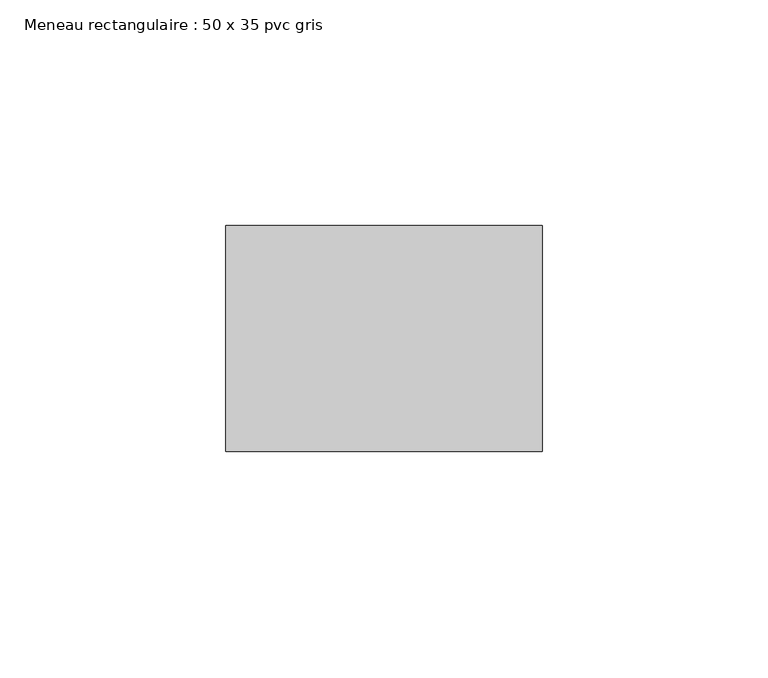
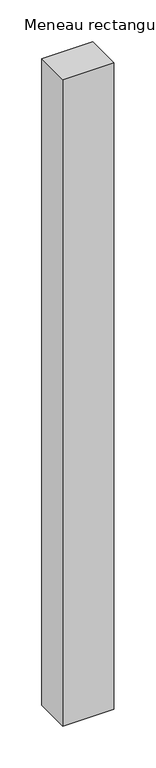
"""IFC4 building model written with IfcOpenShell, lengths in millimetres: member geometry, Meneau rectangulaire : 50 x 35 pvc gris."""

from ifc_helpers import new_model, si_unit, frame, origin, place, context, project, spatial, polyline, outline, extrude, source, transform, mapped, element, save


def meneau_rectangulaire_50_x_35_pvc_gris_bb0e5227(model_context):
    return source(origin(), model_context, "Body", "SweptSolid", [
        extrude(outline(polyline([(35.0, 0.0), (35.0, -50.0), (-35.0, -50.0), (-35.0, 0.0), (35.0, 0.0)])), frame((0.0, 0.0, -941.3980781), z_axis=(0.0, 0.0, 1.0), x_axis=(1.0, 0.0, 0.0)), (0.0, 0.0, 1.0), 941.3980781),
    ])


if __name__ == "__main__":
    model = new_model("IFC4")
    model_context = context("Model", 3, world=origin())
    ifc_project = project(units=[si_unit("LENGTHUNIT", "METRE", prefix="MILLI")], contexts=[model_context])
    site = spatial("IfcSite", under=ifc_project)
    building = spatial("IfcBuilding", under=site)
    placement = place(None, origin())
    meneau_rectangulaire_50_x_35_pvc_gris_shape = meneau_rectangulaire_50_x_35_pvc_gris_bb0e5227(model_context)
    element("IfcMember", 1, ObjectType="Meneau rectangulaire : 50 x 35 pvc gris", at=placement, inside=building, context=model_context, shape_type="MappedRepresentation", body=[
        mapped(meneau_rectangulaire_50_x_35_pvc_gris_shape, transform((0.0, 0.0, 0.0), x_axis=(1.0, 0.0, 0.0), y_axis=(0.0, 1.0, 0.0), z_axis=(0.0, 0.0, 1.0))),
    ])
    save(model, "model.ifc")
